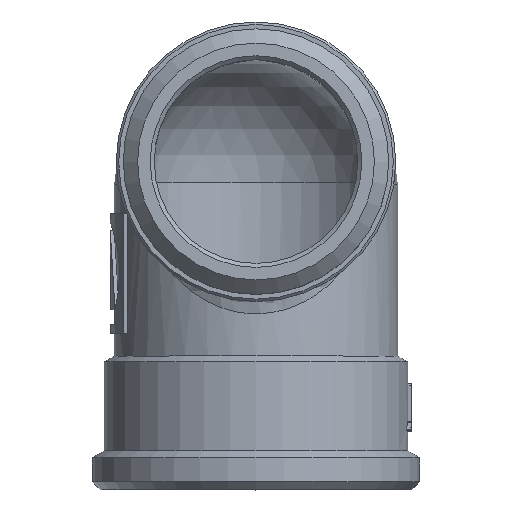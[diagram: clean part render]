
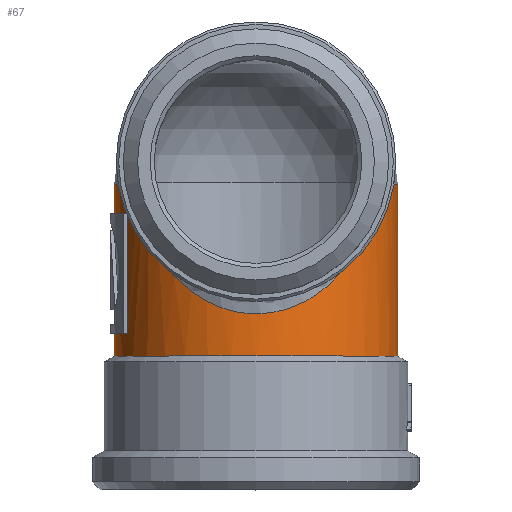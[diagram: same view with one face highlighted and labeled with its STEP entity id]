
A CAD part, top view. The second image highlights one B-rep face of the part: STEP entity #67.
In plain terms, the highlighted cylindrical face has radius 17.75 mm (diameter 35.5 mm), a full revolution.
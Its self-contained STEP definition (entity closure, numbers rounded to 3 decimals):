
#67=ADVANCED_FACE('',(#365,#367,#369),#371,.T.);
#365=FACE_BOUND('',#366,.T.);
#366=EDGE_LOOP('',(#2806,#2807,#2808,#2809));
#367=FACE_BOUND('',#368,.T.);
#368=EDGE_LOOP('',(#2810,#2811));
#369=FACE_BOUND('',#370,.T.);
#370=EDGE_LOOP('',(#2812,#2813,#2814,#2815,#2816,#2817));
#371=CYLINDRICAL_SURFACE('',#372,17.75);
#372=AXIS2_PLACEMENT_3D('',#373,#374,#375);
#373=CARTESIAN_POINT('',(0.,-41.,0.));
#374=DIRECTION('',(0.,1.,0.));
#375=DIRECTION('',(-1.,0.,0.));
#2806=ORIENTED_EDGE('',*,*,#3576,.F.);
#2807=ORIENTED_EDGE('',*,*,#3577,.F.);
#2808=ORIENTED_EDGE('',*,*,#3578,.F.);
#2809=ORIENTED_EDGE('',*,*,#3579,.F.);
#2810=ORIENTED_EDGE('',*,*,#3551,.F.);
#2811=ORIENTED_EDGE('',*,*,#3550,.F.);
#2812=ORIENTED_EDGE('',*,*,#3580,.F.);
#2813=ORIENTED_EDGE('',*,*,#3581,.F.);
#2814=ORIENTED_EDGE('',*,*,#3582,.F.);
#2815=ORIENTED_EDGE('',*,*,#3583,.F.);
#2816=ORIENTED_EDGE('',*,*,#3584,.F.);
#2817=ORIENTED_EDGE('',*,*,#3585,.F.);
#3550=EDGE_CURVE('',#3922,#3923,#3924,.T.);
#3551=EDGE_CURVE('',#3923,#3922,#3925,.T.);
#3576=EDGE_CURVE('',#3966,#3967,#3968,.T.);
#3577=EDGE_CURVE('',#3969,#3966,#3970,.T.);
#3578=EDGE_CURVE('',#3971,#3969,#3972,.T.);
#3579=EDGE_CURVE('',#3967,#3971,#3973,.F.);
#3580=EDGE_CURVE('',#3974,#3975,#3976,.T.);
#3581=EDGE_CURVE('',#3977,#3974,#3978,.T.);
#3582=EDGE_CURVE('',#3979,#3977,#3980,.T.);
#3583=EDGE_CURVE('',#3981,#3979,#3982,.F.);
#3584=EDGE_CURVE('',#3983,#3981,#3984,.F.);
#3585=EDGE_CURVE('',#3975,#3983,#3985,.F.);
#3922=VERTEX_POINT('',#4949);
#3923=VERTEX_POINT('',#4950);
#3924=CIRCLE('',#4951,17.75);
#3925=CIRCLE('',#4955,17.75);
#3966=VERTEX_POINT('',#5054);
#3967=VERTEX_POINT('',#5055);
#3968=CIRCLE('',#5056,17.75);
#3969=VERTEX_POINT('',#5060);
#3970=B_SPLINE_CURVE_WITH_KNOTS('',3,
(#5061,#5062,#5063,#5064,#5065,#5066,#5067,#5068,#5069,#5070,#5071,#5072,#5073,#5074,
#5075,#5076,#5077,#5078,#5079,#5080,#5081,#5082,#5083,#5084,#5085,#5086,#5087,#5088,
#5089,#5090,#5091,#5092,#5093,#5094,#5095,#5096,#5097,#5098,#5099,#5100,#5101,#5102,
#5103,#5104,#5105),
.UNSPECIFIED.,.F.,.F.,
(4,1,1,1,1,1,1,1,1,1,1,1,1,1,1,1,1,1,1,1,1,1,1,1,1,1,1,1,1,1,1,1,1,1,1,1,1,1,1,1,
1,1,4),
(0.,0.025,0.05,0.073,0.098,
0.127,0.157,0.189,0.221,0.251,
0.28,0.304,0.327,0.347,0.369,
0.391,0.414,0.436,0.457,0.475,
0.489,0.505,0.522,0.541,0.561,
0.583,0.602,0.619,0.636,0.659,
0.687,0.719,0.75,0.781,0.809,
0.835,0.857,0.883,0.907,0.933,
0.955,0.977,1.),
.UNSPECIFIED.);
#3971=VERTEX_POINT('',#5106);
#3972=CIRCLE('',#5107,17.75);
#3973=CIRCLE('',#5111,17.75);
#3974=VERTEX_POINT('',#5115);
#3975=VERTEX_POINT('',#5116);
#3976=LINE('',#5117,#5118);
#3977=VERTEX_POINT('',#5120);
#3978=CIRCLE('',#5121,17.75);
#3979=VERTEX_POINT('',#5125);
#3980=CIRCLE('',#5126,17.75);
#3981=VERTEX_POINT('',#5130);
#3982=LINE('',#5131,#5132);
#3983=VERTEX_POINT('',#5134);
#3984=CIRCLE('',#5135,17.75);
#3985=CIRCLE('',#5139,17.75);
#4949=CARTESIAN_POINT('',(17.75,-24.278,0.));
#4950=CARTESIAN_POINT('',(-17.75,-24.278,0.));
#4951=AXIS2_PLACEMENT_3D('',#4952,#4953,#4954);
#4952=CARTESIAN_POINT('',(0.,-24.278,0.));
#4953=DIRECTION('',(0.,-1.,0.));
#4954=DIRECTION('',(1.,0.,0.));
#4955=AXIS2_PLACEMENT_3D('',#4956,#4957,#4958);
#4956=CARTESIAN_POINT('',(0.,-24.278,0.));
#4957=DIRECTION('',(0.,-1.,0.));
#4958=DIRECTION('',(-1.,0.,0.));
#5054=CARTESIAN_POINT('',(15.342,-2.75,8.926));
#5055=CARTESIAN_POINT('',(17.75,-2.75,0.));
#5056=AXIS2_PLACEMENT_3D('',#5057,#5058,#5059);
#5057=CARTESIAN_POINT('',(0.,-2.75,0.));
#5058=DIRECTION('',(0.,1.,0.));
#5059=DIRECTION('',(0.864,0.,0.503));
#5060=CARTESIAN_POINT('',(-15.342,-2.75,8.926));
#5061=CARTESIAN_POINT('',(-15.342,-2.75,8.926));
#5062=CARTESIAN_POINT('',(-15.286,-3.21,9.022));
#5063=CARTESIAN_POINT('',(-15.156,-4.09,9.243));
#5064=CARTESIAN_POINT('',(-14.895,-5.329,9.659));
#5065=CARTESIAN_POINT('',(-14.58,-6.506,10.129));
#5066=CARTESIAN_POINT('',(-14.187,-7.706,10.676));
#5067=CARTESIAN_POINT('',(-13.693,-8.955,11.306));
#5068=CARTESIAN_POINT('',(-13.074,-10.253,12.019));
#5069=CARTESIAN_POINT('',(-12.35,-11.526,12.765));
#5070=CARTESIAN_POINT('',(-11.531,-12.734,13.51));
#5071=CARTESIAN_POINT('',(-10.651,-13.836,14.214));
#5072=CARTESIAN_POINT('',(-9.765,-14.781,14.836));
#5073=CARTESIAN_POINT('',(-8.892,-15.582,15.372));
#5074=CARTESIAN_POINT('',(-8.064,-16.243,15.821));
#5075=CARTESIAN_POINT('',(-7.216,-16.831,16.226));
#5076=CARTESIAN_POINT('',(-6.331,-17.359,16.592));
#5077=CARTESIAN_POINT('',(-5.362,-17.844,16.932));
#5078=CARTESIAN_POINT('',(-4.32,-18.265,17.228));
#5079=CARTESIAN_POINT('',(-3.249,-18.594,17.462));
#5080=CARTESIAN_POINT('',(-2.237,-18.814,17.617));
#5081=CARTESIAN_POINT('',(-1.342,-18.937,17.706));
#5082=CARTESIAN_POINT('',(-0.53,-18.997,17.748));
#5083=CARTESIAN_POINT('',(0.277,-19.006,17.754));
#5084=CARTESIAN_POINT('',(1.153,-18.958,17.72));
#5085=CARTESIAN_POINT('',(2.108,-18.837,17.634));
#5086=CARTESIAN_POINT('',(3.118,-18.627,17.485));
#5087=CARTESIAN_POINT('',(4.11,-18.334,17.277));
#5088=CARTESIAN_POINT('',(5.004,-17.994,17.037));
#5089=CARTESIAN_POINT('',(5.795,-17.632,16.783));
#5090=CARTESIAN_POINT('',(6.611,-17.199,16.481));
#5091=CARTESIAN_POINT('',(7.541,-16.622,16.082));
#5092=CARTESIAN_POINT('',(8.601,-15.837,15.544));
#5093=CARTESIAN_POINT('',(9.666,-14.887,14.905));
#5094=CARTESIAN_POINT('',(10.673,-13.814,14.199));
#5095=CARTESIAN_POINT('',(11.546,-12.711,13.496));
#5096=CARTESIAN_POINT('',(12.283,-11.621,12.825));
#5097=CARTESIAN_POINT('',(12.878,-10.605,12.224));
#5098=CARTESIAN_POINT('',(13.399,-9.588,11.65));
#5099=CARTESIAN_POINT('',(13.864,-8.539,11.092));
#5100=CARTESIAN_POINT('',(14.296,-7.395,10.529));
#5101=CARTESIAN_POINT('',(14.653,-6.255,10.023));
#5102=CARTESIAN_POINT('',(14.945,-5.107,9.581));
#5103=CARTESIAN_POINT('',(15.176,-3.962,9.209));
#5104=CARTESIAN_POINT('',(15.292,-3.16,9.012));
#5105=CARTESIAN_POINT('',(15.342,-2.75,8.926));
#5106=CARTESIAN_POINT('',(-17.75,-2.75,0.));
#5107=AXIS2_PLACEMENT_3D('',#5108,#5109,#5110);
#5108=CARTESIAN_POINT('',(0.,-2.75,0.));
#5109=DIRECTION('',(0.,1.,0.));
#5110=DIRECTION('',(-1.,0.,0.));
#5111=AXIS2_PLACEMENT_3D('',#5112,#5113,#5114);
#5112=CARTESIAN_POINT('',(0.,-2.75,0.));
#5113=DIRECTION('',(0.,-1.,0.));
#5114=DIRECTION('',(-1.,0.,0.));
#5115=CARTESIAN_POINT('',(-16.069,-21.45,7.54));
#5116=CARTESIAN_POINT('',(-16.069,-6.371,7.54));
#5117=CARTESIAN_POINT('',(-16.069,-21.45,7.54));
#5118=VECTOR('',#5119,1.);
#5119=DIRECTION('',(0.,1.,0.));
#5120=CARTESIAN_POINT('',(-17.75,-21.45,0.));
#5121=AXIS2_PLACEMENT_3D('',#5122,#5123,#5124);
#5122=CARTESIAN_POINT('',(0.,-21.45,0.));
#5123=DIRECTION('',(0.,1.,0.));
#5124=DIRECTION('',(-1.,0.,0.));
#5125=CARTESIAN_POINT('',(-16.069,-21.45,-7.54));
#5126=AXIS2_PLACEMENT_3D('',#5127,#5128,#5129);
#5127=CARTESIAN_POINT('',(0.,-21.45,0.));
#5128=DIRECTION('',(0.,1.,0.));
#5129=DIRECTION('',(-0.905,0.,-0.425));
#5130=CARTESIAN_POINT('',(-16.069,-6.371,-7.54));
#5131=CARTESIAN_POINT('',(-16.069,-21.45,-7.54));
#5132=VECTOR('',#5133,1.);
#5133=DIRECTION('',(0.,1.,0.));
#5134=CARTESIAN_POINT('',(-17.75,-6.371,0.));
#5135=AXIS2_PLACEMENT_3D('',#5136,#5137,#5138);
#5136=CARTESIAN_POINT('',(0.,-6.371,0.));
#5137=DIRECTION('',(0.,1.,0.));
#5138=DIRECTION('',(-0.905,0.,-0.425));
#5139=AXIS2_PLACEMENT_3D('',#5140,#5141,#5142);
#5140=CARTESIAN_POINT('',(0.,-6.371,0.));
#5141=DIRECTION('',(0.,1.,0.));
#5142=DIRECTION('',(-1.,0.,0.));
